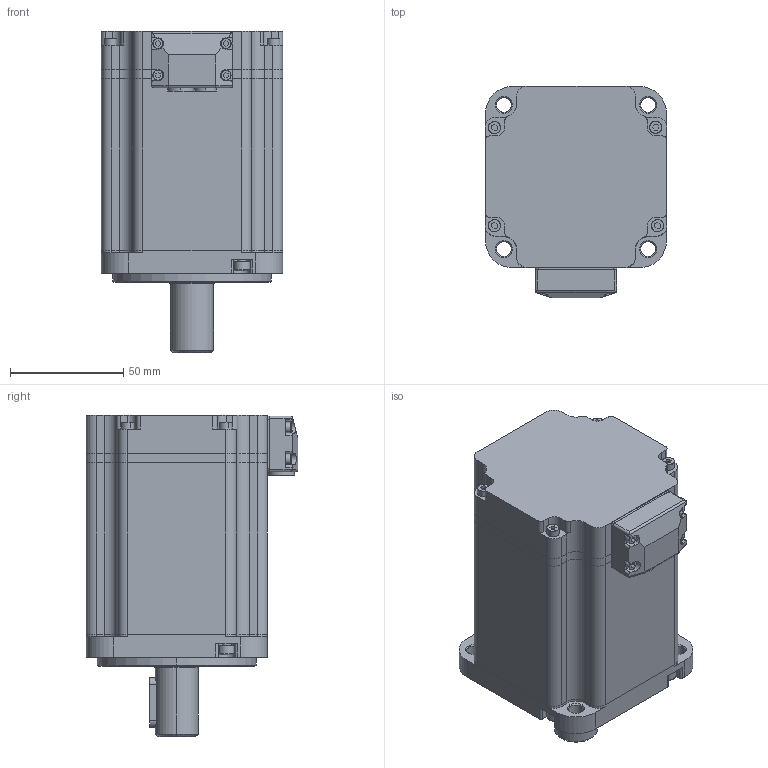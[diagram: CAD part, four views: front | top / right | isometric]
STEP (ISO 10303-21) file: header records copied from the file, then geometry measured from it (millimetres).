
FILE_DESCRIPTION (( 'STEP AP203' ), '1' );
FILE_NAME ('9.5852.STEP', '2020-08-04T06:03:25', ( 'K' ), ( 'K' ), 'SwSTEP 2.0', 'SolidWorks 2018', '' );
FILE_SCHEMA (( 'CONFIG_CONTROL_DESIGN' ));
Length unit declared in the file: millimetre
Products named in the file (1): 9.5852
Bounding box: 80 x 93.5 x 141.7 mm (x, y, z)
Volume: 237534.5 mm3; surface area: 130195.4 mm2
Topology: 25 solids, 25 shells, 1175 faces, 2942 edges, 1870 vertices
Faces by surface type: cylinder 513, plane 469, cone 105, torus 82, bspline 6
Entity records: 35793 total; most frequent: CARTESIAN_POINT 6702, DIRECTION 6476, ORIENTED_EDGE 5812, EDGE_CURVE 2906, AXIS2_PLACEMENT_3D 2482, VERTEX_POINT 1870, LINE 1512, VECTOR 1512
